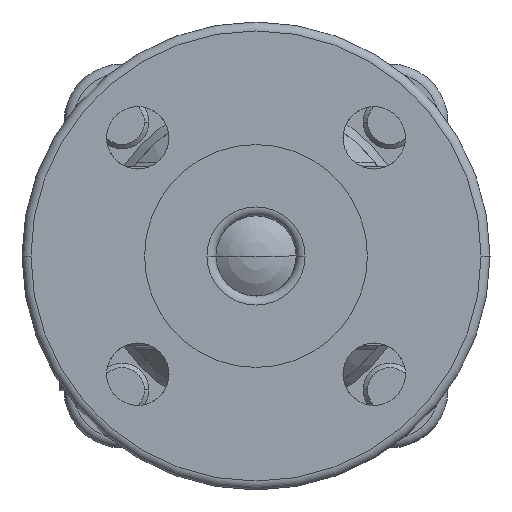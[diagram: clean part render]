
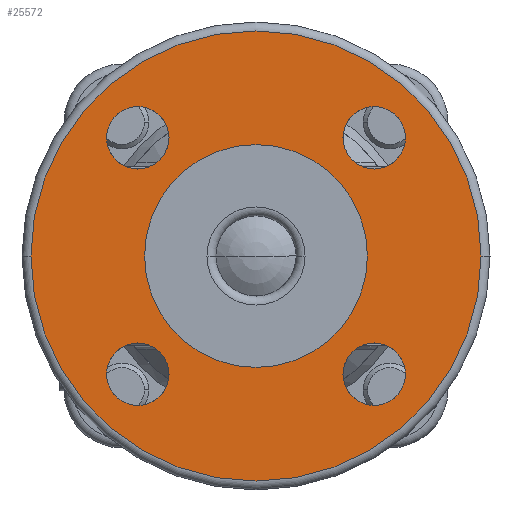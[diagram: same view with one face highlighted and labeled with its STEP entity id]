
A CAD part, left-side view. The second image highlights one B-rep face of the part: STEP entity #25572.
In plain terms, the highlighted planar face has unit normal (-1, 0, 0).
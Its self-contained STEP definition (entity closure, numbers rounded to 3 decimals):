
#5082=CARTESIAN_POINT('',(-127.,0.,0.));
#5083=DIRECTION('',(1.,0.,0.));
#5084=DIRECTION('',(0.,-1.,0.));
#5085=AXIS2_PLACEMENT_3D('',#5082,#5083,#5084);
#5087=CARTESIAN_POINT('',(-127.,0.,0.));
#5088=DIRECTION('',(1.,0.,0.));
#5089=DIRECTION('',(0.,1.,0.));
#5090=AXIS2_PLACEMENT_3D('',#5087,#5088,#5089);
#5092=CARTESIAN_POINT('',(-127.,0.,0.));
#5093=DIRECTION('',(-1.,0.,0.));
#5094=DIRECTION('',(0.,-1.,0.));
#5095=AXIS2_PLACEMENT_3D('',#5092,#5093,#5094);
#5097=CARTESIAN_POINT('',(-127.,0.,0.));
#5098=DIRECTION('',(-1.,0.,0.));
#5099=DIRECTION('',(0.,1.,0.));
#5100=AXIS2_PLACEMENT_3D('',#5097,#5098,#5099);
#5102=CARTESIAN_POINT('',(-127.,-26.517,-26.517));
#5103=DIRECTION('',(-1.,0.,0.));
#5104=DIRECTION('',(0.,-1.,0.));
#5105=AXIS2_PLACEMENT_3D('',#5102,#5103,#5104);
#5107=CARTESIAN_POINT('',(-127.,-26.517,-26.517));
#5108=DIRECTION('',(-1.,0.,0.));
#5109=DIRECTION('',(0.,1.,0.));
#5110=AXIS2_PLACEMENT_3D('',#5107,#5108,#5109);
#5112=CARTESIAN_POINT('',(-127.,26.517,-26.517));
#5113=DIRECTION('',(-1.,0.,0.));
#5114=DIRECTION('',(0.,0.,-1.));
#5115=AXIS2_PLACEMENT_3D('',#5112,#5113,#5114);
#5117=CARTESIAN_POINT('',(-127.,26.517,-26.517));
#5118=DIRECTION('',(-1.,0.,0.));
#5119=DIRECTION('',(0.,0.,1.));
#5120=AXIS2_PLACEMENT_3D('',#5117,#5118,#5119);
#5122=CARTESIAN_POINT('',(-127.,26.517,26.517));
#5123=DIRECTION('',(-1.,0.,0.));
#5124=DIRECTION('',(0.,1.,0.));
#5125=AXIS2_PLACEMENT_3D('',#5122,#5123,#5124);
#5127=CARTESIAN_POINT('',(-127.,26.517,26.517));
#5128=DIRECTION('',(-1.,0.,0.));
#5129=DIRECTION('',(0.,-1.,0.));
#5130=AXIS2_PLACEMENT_3D('',#5127,#5128,#5129);
#5132=CARTESIAN_POINT('',(-127.,-26.517,26.517));
#5133=DIRECTION('',(-1.,0.,0.));
#5134=DIRECTION('',(0.,0.,1.));
#5135=AXIS2_PLACEMENT_3D('',#5132,#5133,#5134);
#5137=CARTESIAN_POINT('',(-127.,-26.517,26.517));
#5138=DIRECTION('',(-1.,0.,0.));
#5139=DIRECTION('',(0.,0.,-1.));
#5140=AXIS2_PLACEMENT_3D('',#5137,#5138,#5139);
#19945=CARTESIAN_POINT('',(-127.,-26.517,33.517));
#19947=VERTEX_POINT('',#19945);
#19988=CARTESIAN_POINT('',(-127.,-33.517,-26.517));
#19990=VERTEX_POINT('',#19988);
#20034=CARTESIAN_POINT('',(-127.,-50.5,0.));
#20035=VERTEX_POINT('',#20034);
#20036=CARTESIAN_POINT('',(-127.,50.5,0.));
#20037=VERTEX_POINT('',#20036);
#20038=CARTESIAN_POINT('',(-127.,-19.517,-26.517));
#20039=VERTEX_POINT('',#20038);
#20040=CARTESIAN_POINT('',(-127.,26.517,-33.517));
#20041=CARTESIAN_POINT('',(-127.,26.517,-19.517));
#20042=VERTEX_POINT('',#20040);
#20043=VERTEX_POINT('',#20041);
#20044=CARTESIAN_POINT('',(-127.,33.517,26.517));
#20045=CARTESIAN_POINT('',(-127.,19.517,26.517));
#20046=VERTEX_POINT('',#20044);
#20047=VERTEX_POINT('',#20045);
#20048=CARTESIAN_POINT('',(-127.,-26.517,19.517));
#20049=VERTEX_POINT('',#20048);
#20050=CARTESIAN_POINT('',(-127.,-25.,0.));
#20051=CARTESIAN_POINT('',(-127.,25.,0.));
#20052=VERTEX_POINT('',#20050);
#20053=VERTEX_POINT('',#20051);
#25532=CARTESIAN_POINT('',(-127.,0.,0.));
#25533=DIRECTION('',(1.,0.,0.));
#25534=DIRECTION('',(0.,-1.,0.));
#25535=AXIS2_PLACEMENT_3D('',#25532,#25533,#25534);
#25536=PLANE('',#25535);
#25538=ORIENTED_EDGE('',*,*,#25537,.T.);
#25539=ORIENTED_EDGE('',*,*,#25522,.T.);
#25540=EDGE_LOOP('',(#25538,#25539));
#25541=FACE_OUTER_BOUND('',#25540,.F.);
#25543=ORIENTED_EDGE('',*,*,#25542,.T.);
#25545=ORIENTED_EDGE('',*,*,#25544,.T.);
#25546=EDGE_LOOP('',(#25543,#25545));
#25547=FACE_BOUND('',#25546,.F.);
#25549=ORIENTED_EDGE('',*,*,#25548,.T.);
#25551=ORIENTED_EDGE('',*,*,#25550,.T.);
#25552=EDGE_LOOP('',(#25549,#25551));
#25553=FACE_BOUND('',#25552,.F.);
#25555=ORIENTED_EDGE('',*,*,#25554,.T.);
#25557=ORIENTED_EDGE('',*,*,#25556,.T.);
#25558=EDGE_LOOP('',(#25555,#25557));
#25559=FACE_BOUND('',#25558,.F.);
#25561=ORIENTED_EDGE('',*,*,#25560,.T.);
#25563=ORIENTED_EDGE('',*,*,#25562,.T.);
#25564=EDGE_LOOP('',(#25561,#25563));
#25565=FACE_BOUND('',#25564,.F.);
#25567=ORIENTED_EDGE('',*,*,#25566,.T.);
#25569=ORIENTED_EDGE('',*,*,#25568,.T.);
#25570=EDGE_LOOP('',(#25567,#25569));
#25571=FACE_BOUND('',#25570,.F.);
#25572=ADVANCED_FACE('',(#25541,#25547,#25553,#25559,#25565,#25571),#25536,.F.);
#5086=CIRCLE('',#5085,50.5);
#5091=CIRCLE('',#5090,50.5);
#5096=CIRCLE('',#5095,25.);
#5101=CIRCLE('',#5100,25.);
#5106=CIRCLE('',#5105,7.);
#5111=CIRCLE('',#5110,7.);
#5116=CIRCLE('',#5115,7.);
#5121=CIRCLE('',#5120,7.);
#5126=CIRCLE('',#5125,7.);
#5131=CIRCLE('',#5130,7.);
#5136=CIRCLE('',#5135,7.);
#5141=CIRCLE('',#5140,7.);
#25522=EDGE_CURVE('',#20037,#20035,#5091,.T.);
#25537=EDGE_CURVE('',#20035,#20037,#5086,.T.);
#25542=EDGE_CURVE('',#20052,#20053,#5096,.T.);
#25544=EDGE_CURVE('',#20053,#20052,#5101,.T.);
#25548=EDGE_CURVE('',#19990,#20039,#5106,.T.);
#25550=EDGE_CURVE('',#20039,#19990,#5111,.T.);
#25554=EDGE_CURVE('',#20042,#20043,#5116,.T.);
#25556=EDGE_CURVE('',#20043,#20042,#5121,.T.);
#25560=EDGE_CURVE('',#20046,#20047,#5126,.T.);
#25562=EDGE_CURVE('',#20047,#20046,#5131,.T.);
#25566=EDGE_CURVE('',#19947,#20049,#5136,.T.);
#25568=EDGE_CURVE('',#20049,#19947,#5141,.T.);
